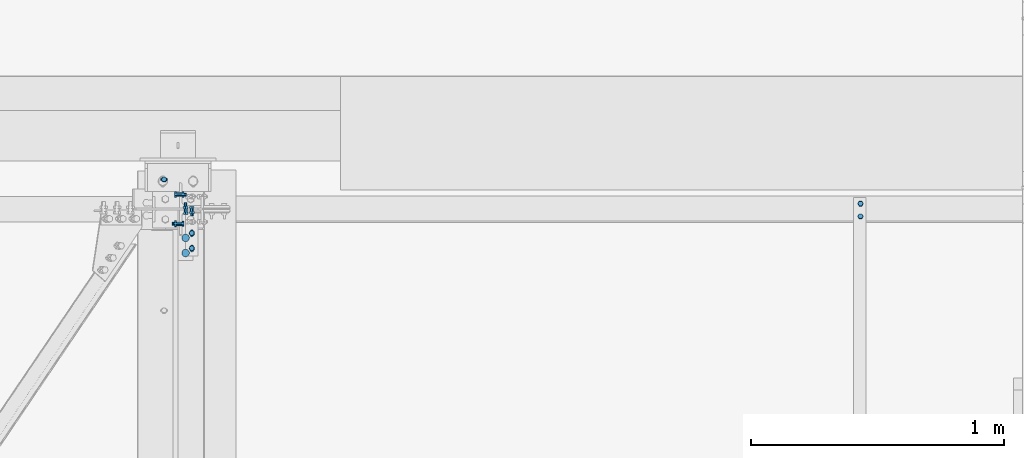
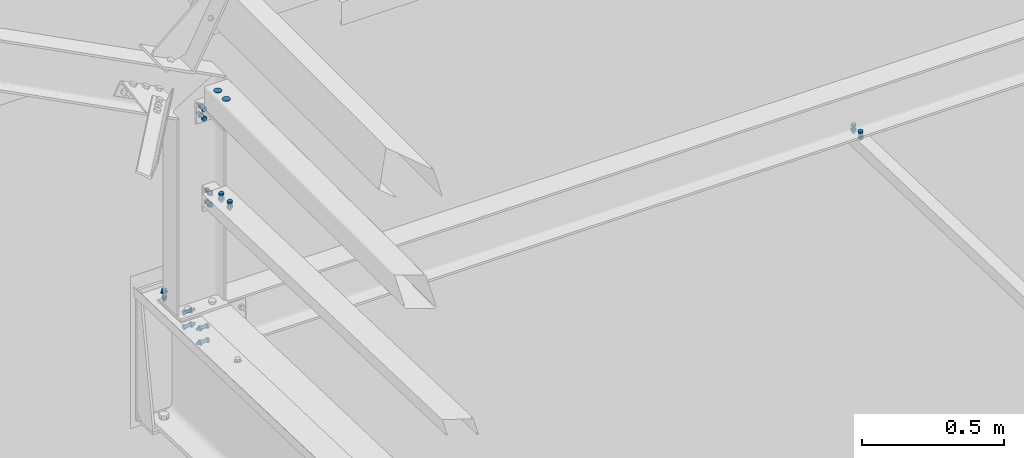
# One storey, part 296 of 362: 8 mechanical fasteners.
"""IFC2X3 building model written with IfcOpenShell, lengths in millimetres."""

from ifc_helpers import new_model, si_unit, frame, frame_2d, origin_with_axes, origin_2d_with_axis, place, context, subcontext, project, spatial, polyline, circle_curve, parameter, trimmed, segment, composite_curve, circle, outline, extrude, source, transform, mapped, material, type_object, element, save


model = new_model("IFC2X3")

# Units and contexts
model_context = context("Model", 3, precision=1e-05, world=origin_with_axes())
body_context = subcontext(model_context, "Body", "Model", "MODEL_VIEW")
ifc_project = project(units=[si_unit("LENGTHUNIT", "METRE", prefix="MILLI"), si_unit("AREAUNIT", "SQUARE_METRE"), si_unit("VOLUMEUNIT", "CUBIC_METRE"), si_unit("MASSUNIT", "GRAM", prefix="KILO"), si_unit("TIMEUNIT", "SECOND"), si_unit("PLANEANGLEUNIT", "RADIAN"), si_unit("SOLIDANGLEUNIT", "STERADIAN"), si_unit("THERMODYNAMICTEMPERATUREUNIT", "DEGREE_CELSIUS"), si_unit("LUMINOUSINTENSITYUNIT", "LUMEN")], contexts=[model_context])

# Site, building, storey
site_placement = place(None, origin_with_axes())
site = spatial("IfcSite", under=ifc_project, at=site_placement, Name="Undefined", CompositionType="ELEMENT")
building_placement = place(site_placement, origin_with_axes())
building = spatial("IfcBuilding", under=site, at=building_placement, Name="Undefined", CompositionType="ELEMENT")
storey_placement = place(building_placement, origin_with_axes())
storey = spatial("IfcBuildingStorey", under=building, at=storey_placement, Name="Undefined", CompositionType="ELEMENT", Elevation=0.0)

# Mechanical fasteners
ifc_material_1 = material(Name="6.8")
mechanical_fastener_type = type_object("IfcMechanicalFastenerType", Name="Bolt assembly")
shared_shape_1 = source(origin_with_axes(), body_context, "Body", "SweptSolid", [
    extrude(circle(Radius=15.0, at=origin_2d_with_axis()), frame((0.0, 0.0, 0.0), z_axis=(0.0, 1.0, 0.0), x_axis=(1.0, 0.0, 0.0)), (0.0, 0.0, 1.0), 4.1),
])
mechanical_fastener_1_placement = place(storey_placement, frame((28910.0, 15026.5, 8550.0), z_axis=(-1.0, 0.0, 0.0), x_axis=(0.0, 1.0, 0.0)))
element("IfcMechanicalFastener", 1, at=mechanical_fastener_1_placement, inside=storey, type_object=mechanical_fastener_type, material=ifc_material_1, Name="Bolt assembly", NominalDiameter=30.0, NominalLength=4.0, context=body_context, shape_type="MappedRepresentation", body=[
    mapped(shared_shape_1, transform((0.0, 0.0, 0.0))),
    mapped(shared_shape_1, transform((60.0, 0.0, 0.0))),
])
ifc_material_2 = material(Name="8.8-SB-ZINGUE")
shared_shape_2 = source(origin_with_axes(), body_context, "Body", "SweptSolid", [
    extrude(circle(Radius=7.0, at=origin_2d_with_axis()), frame((0.0, -8.40001950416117, 0.0), z_axis=(0.0, 1.0, 0.0), x_axis=(1.0, 0.0, 0.0)), (0.0, 0.0, 1.0), 8.5),
    extrude(circle(Radius=7.0, at=origin_2d_with_axis()), frame((0.0, -0.100011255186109, 0.0), z_axis=(0.0, 1.0, 0.0), x_axis=(1.0, 0.0, 0.0)), (0.0, 0.0, 1.0), 5.1),
    extrude(outline(polyline([(10.39230484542, 0.0), (5.19615242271, 9.00000000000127), (-5.19615242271, 9.00000000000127), (-10.39230484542, 0.0), (-5.19615242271, -9.00000000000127), (5.19615242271, -9.00000000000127), (10.39230484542, 0.0)])), frame((0.0, -16.4200195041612, 0.0), z_axis=(0.0, 1.0, 0.0), x_axis=(1.0, 0.0, 0.0)), (0.0, 0.0, 1.0), 7.92),
    extrude(circle(Radius=6.0, at=origin_2d_with_axis()), frame((0.0, -8.5, 0.0), z_axis=(0.0, 1.0, 0.0), x_axis=(1.0, 0.0, 0.0)), (0.0, 0.0, 1.0), 30.0),
    extrude(outline(polyline([(11.5008173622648, 0.0), (5.7504086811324, 9.96000000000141), (-5.7504086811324, 9.96000000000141), (-11.5008173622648, 0.0), (-5.7504086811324, -9.96000000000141), (5.7504086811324, -9.96000000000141), (11.5008173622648, 0.0)])), frame((0.0, 5.0, 0.0), z_axis=(0.0, 1.0, 0.0), x_axis=(1.0, 0.0, 0.0)), (0.0, 0.0, 1.0), 7.92),
])
mechanical_fastener_2_placement = place(storey_placement, frame((31580.0000126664, 15196.85887818, 7372.32065100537), z_axis=(0.0, -0.999506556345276, 0.031410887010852), x_axis=(-1.0, 0.0, 0.0)))
element("IfcMechanicalFastener", 2, at=mechanical_fastener_2_placement, inside=storey, type_object=mechanical_fastener_type, material=ifc_material_2, Name="Bolt assembly", NominalDiameter=12.0, NominalLength=30.0, context=body_context, shape_type="MappedRepresentation", body=[
    mapped(shared_shape_2, transform((0.0, 0.0, -25.0))),
    mapped(shared_shape_2, transform((0.0, 0.0, 25.0))),
])
ifc_material_3 = material(Name="#_SB-8.8-ZINGUE")
shared_shape_3 = source(origin_with_axes(), body_context, "Body", "SweptSolid", [
    extrude(circle(Radius=7.0, at=origin_2d_with_axis()), frame((0.0, -0.100011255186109, 0.0), z_axis=(0.0, 1.0, 0.0), x_axis=(1.0, 0.0, 0.0)), (0.0, 0.0, 1.0), 17.3),
    extrude(outline(composite_curve([segment(polyline([(-7.0, 7.0), (7.0, 7.0)]), True, "CONTINUOUS"), segment(trimmed(circle_curve(frame_2d((7.0, 0.0), x_axis=(0.0, 1.0)), 7.0), [parameter(0.0)], [parameter(3.14159265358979)], False, "PARAMETER"), True, "CONTINUOUS"), segment(polyline([(7.0, -7.0), (-7.0, -7.0)]), True, "CONTINUOUS"), segment(trimmed(circle_curve(frame_2d((-7.0, 0.0), x_axis=(0.0, -1.0)), 7.0), [parameter(0.0)], [parameter(3.14159265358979)], False, "PARAMETER"), True, "DISCONTINUOUS")], self_intersect=False)), frame((0.0, -1.90000109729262, 0.0), z_axis=(0.0, 1.0, 0.0), x_axis=(1.0, 0.0, 0.0)), (0.0, 0.0, 1.0), 2.0),
    extrude(outline(polyline([(10.39230484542, 0.0), (5.19615242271, 9.00000000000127), (-5.19615242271, 9.00000000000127), (-10.39230484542, 0.0), (-5.19615242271, -9.00000000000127), (5.19615242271, -9.00000000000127), (10.39230484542, 0.0)])), frame((0.0, -13.8800244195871, 0.0), z_axis=(0.0, 1.0, 0.0), x_axis=(1.0, 0.0, 0.0)), (0.0, 0.0, 1.0), 7.92),
    extrude(circle(Radius=6.0, at=origin_2d_with_axis()), frame((0.0, -5.96002441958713, 0.0), z_axis=(0.0, 1.0, 0.0), x_axis=(1.0, 0.0, 0.0)), (0.0, 0.0, 1.0), 40.0),
    extrude(circle(Radius=10.8, at=origin_2d_with_axis()), frame((0.0, -5.96002441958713, 0.0), z_axis=(0.0, 1.0, 0.0), x_axis=(1.0, 0.0, 0.0)), (0.0, 0.0, 1.0), 3.96),
    extrude(outline(polyline([(11.5008173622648, 0.0), (5.7504086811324, 9.96000000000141), (-5.7504086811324, 9.96000000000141), (-11.5008173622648, 0.0), (-5.7504086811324, -9.96000000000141), (5.7504086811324, -9.96000000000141), (11.5008173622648, 0.0)])), frame((0.0, 17.2000007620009, 0.0), z_axis=(0.0, 1.0, 0.0), x_axis=(1.0, 0.0, 0.0)), (0.0, 0.0, 1.0), 7.92),
])
mechanical_fastener_3_placement = place(storey_placement, frame((28825.0, 15317.3222832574, 7568.63375588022), z_axis=(0.0, -0.999506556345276, 0.031410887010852), x_axis=(-1.0, 0.0, 0.0)))
element("IfcMechanicalFastener", 3, at=mechanical_fastener_3_placement, inside=storey, type_object=mechanical_fastener_type, material=ifc_material_3, Name="Bolt assembly", NominalDiameter=12.0, NominalLength=40.0, context=body_context, shape_type="MappedRepresentation", body=[
    mapped(shared_shape_3, transform((0.0, 0.0, 0.0))),
])
shared_shape_4 = source(origin_with_axes(), body_context, "Body", "SweptSolid", [
    extrude(circle(Radius=7.0, at=origin_2d_with_axis()), frame((0.0, -2.6999999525, 0.0), z_axis=(0.0, 1.0, 0.0), x_axis=(1.0, 0.0, 0.0)), (0.0, 0.0, 1.0), 5.6),
    extrude(circle(Radius=7.0, at=origin_2d_with_axis()), frame((0.0, 3.40000111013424, 0.0), z_axis=(0.0, 1.0, 0.0), x_axis=(1.0, 0.0, 0.0)), (0.0, 0.0, 1.0), 6.1),
    extrude(outline(polyline([(10.39230484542, 0.0), (5.19615242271, 9.00000000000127), (-5.19615242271, 9.00000000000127), (-10.39230484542, 0.0), (-5.19615242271, -9.00000000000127), (5.19615242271, -9.00000000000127), (10.39230484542, 0.0)])), frame((0.0, -10.7199999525, 0.0), z_axis=(0.0, 1.0, 0.0), x_axis=(1.0, 0.0, 0.0)), (0.0, 0.0, 1.0), 7.92),
    extrude(circle(Radius=6.0, at=origin_2d_with_axis()), frame((0.0, -2.7999999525, 0.0), z_axis=(0.0, 1.0, 0.0), x_axis=(1.0, 0.0, 0.0)), (0.0, 0.0, 1.0), 30.0),
    extrude(outline(polyline([(11.5008173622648, 0.0), (5.7504086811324, 9.96000000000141), (-5.7504086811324, 9.96000000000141), (-11.5008173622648, 0.0), (-5.7504086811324, -9.96000000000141), (5.7504086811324, -9.96000000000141), (11.5008173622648, 0.0)])), frame((0.0, 9.50000815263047, 0.0), z_axis=(0.0, 1.0, 0.0), x_axis=(1.0, 0.0, 0.0)), (0.0, 0.0, 1.0), 7.92),
])
mechanical_fastener_4_placement = place(storey_placement, frame((28935.0000000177, 15200.0, 7988.56857969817), z_axis=(1.0, 0.0, 0.0), x_axis=(0.0, 0.0, 1.0)))
element("IfcMechanicalFastener", 4, at=mechanical_fastener_4_placement, inside=storey, type_object=mechanical_fastener_type, material=ifc_material_2, Name="Bolt assembly", NominalDiameter=12.0, NominalLength=30.0, context=body_context, shape_type="MappedRepresentation", body=[
    mapped(shared_shape_4, transform((0.0, 0.0, 0.0))),
    mapped(shared_shape_4, transform((49.9999999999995, 0.0, -3.63797880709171e-12))),
])
shared_shape_5 = source(origin_with_axes(), body_context, "Body", "SweptSolid", [
    extrude(circle(Radius=7.0, at=origin_2d_with_axis()), frame((0.0, -3.89991628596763, 0.0), z_axis=(0.0, 1.0, 0.0), x_axis=(1.0, 0.0, 0.0)), (0.0, 0.0, 1.0), 4.0),
    extrude(outline(composite_curve([segment(polyline([(-7.0, 7.0), (7.0, 7.0)]), True, "CONTINUOUS"), segment(trimmed(circle_curve(frame_2d((7.0, 0.0), x_axis=(0.0, 1.0)), 7.0), [parameter(0.0)], [parameter(3.14159265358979)], False, "PARAMETER"), True, "CONTINUOUS"), segment(polyline([(7.0, -7.0), (-7.0, -7.0)]), True, "CONTINUOUS"), segment(trimmed(circle_curve(frame_2d((-7.0, 0.0), x_axis=(0.0, -1.0)), 7.0), [parameter(0.0)], [parameter(3.14159265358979)], False, "PARAMETER"), True, "DISCONTINUOUS")], self_intersect=False)), frame((0.0, -0.100011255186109, 0.0), z_axis=(0.0, 1.0, 0.0), x_axis=(1.0, 0.0, 0.0)), (0.0, 0.0, 1.0), 6.1),
    extrude(outline(polyline([(10.39230484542, 0.0), (5.19615242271, 9.00000000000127), (-5.19615242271, 9.00000000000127), (-10.39230484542, 0.0), (-5.19615242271, -9.00000000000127), (5.19615242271, -9.00000000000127), (10.39230484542, 0.0)])), frame((0.0, -11.9199162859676, 0.0), z_axis=(0.0, 1.0, 0.0), x_axis=(1.0, 0.0, 0.0)), (0.0, 0.0, 1.0), 7.92),
    extrude(circle(Radius=6.0, at=origin_2d_with_axis()), frame((0.0, -3.99991628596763, 0.0), z_axis=(0.0, 1.0, 0.0), x_axis=(1.0, 0.0, 0.0)), (0.0, 0.0, 1.0), 30.0),
    extrude(circle(Radius=10.8, at=origin_2d_with_axis()), frame((0.0, 6.0, 0.0), z_axis=(0.0, 1.0, 0.0), x_axis=(1.0, 0.0, 0.0)), (0.0, 0.0, 1.0), 3.96),
    extrude(outline(polyline([(11.5008173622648, 0.0), (5.7504086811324, 9.96000000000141), (-5.7504086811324, 9.96000000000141), (-11.5008173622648, 0.0), (-5.7504086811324, -9.96000000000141), (5.7504086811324, -9.96000000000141), (11.5008173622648, 0.0)])), frame((0.0, 9.9600084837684, 0.0), z_axis=(0.0, 1.0, 0.0), x_axis=(1.0, 0.0, 0.0)), (0.0, 0.0, 1.0), 7.92),
])
mechanical_fastener_5_placement = place(storey_placement, frame((28935.0, 15045.0444201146, 8078.43882412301), z_axis=(-1.0, 0.0, 0.0), x_axis=(0.0, 0.99950644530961, -0.0314144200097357)))
element("IfcMechanicalFastener", 5, at=mechanical_fastener_5_placement, inside=storey, type_object=mechanical_fastener_type, material=ifc_material_2, Name="Bolt assembly", NominalDiameter=12.0, NominalLength=30.0, context=body_context, shape_type="MappedRepresentation", body=[
    mapped(shared_shape_5, transform((0.0, 0.0, 0.0))),
    mapped(shared_shape_5, transform((60.0, 0.0, 0.0))),
])
shared_shape_6 = source(origin_with_axes(), body_context, "Body", "SweptSolid", [
    extrude(circle(Radius=7.0, at=origin_2d_with_axis()), frame((0.0, -2.90010483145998, 0.0), z_axis=(0.0, 1.0, 0.0), x_axis=(1.0, 0.0, 0.0)), (0.0, 0.0, 1.0), 5.7),
    extrude(circle(Radius=7.0, at=origin_2d_with_axis()), frame((0.0, -13.4001048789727, 0.0), z_axis=(0.0, 1.0, 0.0), x_axis=(1.0, 0.0, 0.0)), (0.0, 0.0, 1.0), 10.0),
    extrude(outline(polyline([(10.39230484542, 0.0), (5.19615242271, 9.00000000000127), (-5.19615242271, 9.00000000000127), (-10.39230484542, 0.0), (-5.19615242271, -9.00000000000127), (5.19615242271, -9.00000000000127), (10.39230484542, 0.0)])), frame((0.0, -21.4201048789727, 0.0), z_axis=(0.0, 1.0, 0.0), x_axis=(1.0, 0.0, 0.0)), (0.0, 0.0, 1.0), 7.92),
    extrude(circle(Radius=6.0, at=origin_2d_with_axis()), frame((0.0, -13.5000574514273, 0.0), z_axis=(0.0, 1.0, 0.0), x_axis=(1.0, 0.0, 0.0)), (0.0, 0.0, 1.0), 40.0),
    extrude(outline(polyline([(11.5008173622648, 0.0), (5.7504086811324, 9.96000000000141), (-5.7504086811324, 9.96000000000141), (-11.5008173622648, 0.0), (-5.7504086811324, -9.96000000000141), (5.7504086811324, -9.96000000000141), (11.5008173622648, 0.0)])), frame((0.0, 2.79989507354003, 0.0), z_axis=(0.0, 1.0, 0.0), x_axis=(1.0, 0.0, 0.0)), (0.0, 0.0, 1.0), 7.92),
])
mechanical_fastener_6_placement = place(storey_placement, frame((28910.0, 15200.000104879, 8370.0), z_axis=(-1.0, 0.0, 0.0), x_axis=(0.0, 0.0, 1.0)))
element("IfcMechanicalFastener", 6, at=mechanical_fastener_6_placement, inside=storey, type_object=mechanical_fastener_type, material=ifc_material_2, Name="Bolt assembly", NominalDiameter=12.0, NominalLength=40.0, context=body_context, shape_type="MappedRepresentation", body=[
    mapped(shared_shape_6, transform((0.0, 0.0, 0.0))),
    mapped(shared_shape_6, transform((40.0, 0.0, 0.0))),
])
shared_shape_7 = source(origin_with_axes(), body_context, "Body", "SweptSolid", [
    extrude(circle(Radius=7.0, at=origin_2d_with_axis()), frame((0.0, -5.45000018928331, 0.0), z_axis=(0.0, 1.0, 0.0), x_axis=(1.0, 0.0, 0.0)), (0.0, 0.0, 1.0), 11.1),
    extrude(circle(Radius=7.0, at=origin_2d_with_axis()), frame((0.0, 5.90002706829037, 0.0), z_axis=(0.0, 1.0, 0.0), x_axis=(1.0, 0.0, 0.0)), (0.0, 0.0, 1.0), 10.1),
    extrude(outline(polyline([(10.39230484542, 0.0), (5.19615242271, 9.00000000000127), (-5.19615242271, 9.00000000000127), (-10.39230484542, 0.0), (-5.19615242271, -9.00000000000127), (5.19615242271, -9.00000000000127), (10.39230484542, 0.0)])), frame((0.0, -13.4700001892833, 0.0), z_axis=(0.0, 1.0, 0.0), x_axis=(1.0, 0.0, 0.0)), (0.0, 0.0, 1.0), 7.92),
    extrude(circle(Radius=6.0, at=origin_2d_with_axis()), frame((0.0, -5.55000018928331, 0.0), z_axis=(0.0, 1.0, 0.0), x_axis=(1.0, 0.0, 0.0)), (0.0, 0.0, 1.0), 40.0),
    extrude(outline(polyline([(11.5008173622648, 0.0), (5.7504086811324, 9.96000000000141), (-5.7504086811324, 9.96000000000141), (-11.5008173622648, 0.0), (-5.7504086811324, -9.96000000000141), (5.7504086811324, -9.96000000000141), (11.5008173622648, 0.0)])), frame((0.0, 15.9999999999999, 0.0), z_axis=(0.0, 1.0, 0.0), x_axis=(1.0, 0.0, 0.0)), (0.0, 0.0, 1.0), 7.92),
])
mechanical_fastener_7_placement = place(storey_placement, frame((28880.0, 15257.9718268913, 7470.44997073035), z_axis=(7.58071938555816e-11, 0.0314107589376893, 0.999506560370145), x_axis=(0.0, -0.999506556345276, 0.031410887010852)))
element("IfcMechanicalFastener", 7, at=mechanical_fastener_7_placement, inside=storey, type_object=mechanical_fastener_type, material=ifc_material_2, Name="Bolt assembly", NominalDiameter=12.0, NominalLength=40.0, context=body_context, shape_type="MappedRepresentation", body=[
    mapped(shared_shape_7, transform((0.0, 0.0, -30.0))),
    mapped(shared_shape_7, transform((0.0, 0.0, 30.0))),
])
shared_shape_8 = source(origin_with_axes(), body_context, "Body", "SweptSolid", [
    extrude(circle(Radius=7.0, at=origin_2d_with_axis()), frame((0.0, -5.65000019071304, 0.0), z_axis=(0.0, 1.0, 0.0), x_axis=(1.0, 0.0, 0.0)), (0.0, 0.0, 1.0), 11.2),
    extrude(circle(Radius=7.0, at=origin_2d_with_axis()), frame((0.0, -15.9000004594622, 0.0), z_axis=(0.0, 1.0, 0.0), x_axis=(1.0, 0.0, 0.0)), (0.0, 0.0, 1.0), 10.0),
    extrude(outline(polyline([(10.39230484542, 0.0), (5.19615242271, 9.00000000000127), (-5.19615242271, 9.00000000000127), (-10.39230484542, 0.0), (-5.19615242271, -9.00000000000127), (5.19615242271, -9.00000000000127), (10.39230484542, 0.0)])), frame((0.0, -23.9200004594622, 0.0), z_axis=(0.0, 1.0, 0.0), x_axis=(1.0, 0.0, 0.0)), (0.0, 0.0, 1.0), 7.92),
    extrude(circle(Radius=6.0, at=origin_2d_with_axis()), frame((0.0, -16.0000004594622, 0.0), z_axis=(0.0, 1.0, 0.0), x_axis=(1.0, 0.0, 0.0)), (0.0, 0.0, 1.0), 40.0),
    extrude(outline(polyline([(11.5008173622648, 0.0), (5.7504086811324, 9.96000000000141), (-5.7504086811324, 9.96000000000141), (-11.5008173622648, 0.0), (-5.7504086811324, -9.96000000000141), (5.7504086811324, -9.96000000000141), (11.5008173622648, 0.0)])), frame((0.0, 5.55000018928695, 0.0), z_axis=(0.0, 1.0, 0.0), x_axis=(1.0, 0.0, 0.0)), (0.0, 0.0, 1.0), 7.92),
])
mechanical_fastener_8_placement = place(storey_placement, frame((28880.0, 15142.0282057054, 7474.09369910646), z_axis=(7.58071938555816e-11, 0.0314107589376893, 0.999506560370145), x_axis=(3.14103090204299e-11, 0.999506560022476, -0.0314107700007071)))
element("IfcMechanicalFastener", 8, at=mechanical_fastener_8_placement, inside=storey, type_object=mechanical_fastener_type, material=ifc_material_2, Name="Bolt assembly", NominalDiameter=12.0, NominalLength=40.0, context=body_context, shape_type="MappedRepresentation", body=[
    mapped(shared_shape_8, transform((0.0, 0.0, -30.0))),
    mapped(shared_shape_8, transform((0.0, 0.0, 30.0))),
])

save(model, "model.ifc")
